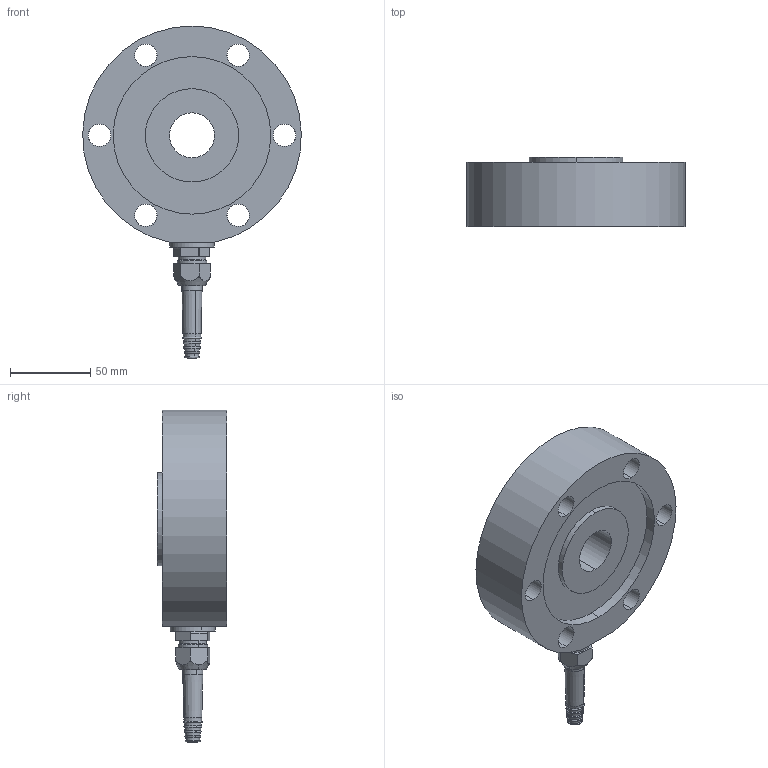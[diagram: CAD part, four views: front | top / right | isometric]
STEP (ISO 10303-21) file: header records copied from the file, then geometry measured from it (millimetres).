
FILE_DESCRIPTION (( 'STEP AP214' ), '1' );
FILE_NAME ('CLC-1 250 kN Load Cell.STEP', '2021-06-17T08:12:51', ( '' ), ( '' ), 'SwSTEP 2.0', 'SolidWorks 2021', '' );
FILE_SCHEMA (( 'AUTOMOTIVE_DESIGN' ));
Length unit declared in the file: millimetre
Products named in the file (5): 401514r0; CLC-1 250 kN Load Cell; M26x1.5 - Pg9 - 6369829; 501978r0; Pg9 - 1009.52 6_2_14
Assembly tree (5 placements, depth 2):
  CLC-1 250 kN Load Cell
    401514r0
    M26x1.5 - Pg9 - 6369829
    Pg9 - 1009.52 6_2_14
    501978r0  x2
Bounding box: 135.98 x 43 x 206.5 mm (x, y, z)
Volume: 469248.4 mm3; surface area: 94013.5 mm2
Topology: 5 solids, 8 shells, 228 faces, 528 edges, 331 vertices
Faces by surface type: cylinder 98, cone 57, plane 47, bspline 16, torus 10
Entity records: 11396 total; most frequent: CARTESIAN_POINT 5475, DIRECTION 1070, ORIENTED_EDGE 1028, EDGE_CURVE 514, AXIS2_PLACEMENT_3D 457, VERTEX_POINT 323, EDGE_LOOP 265, CIRCLE 243
